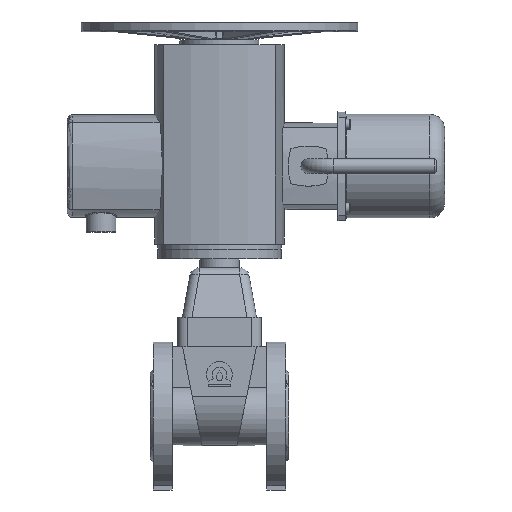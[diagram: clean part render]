
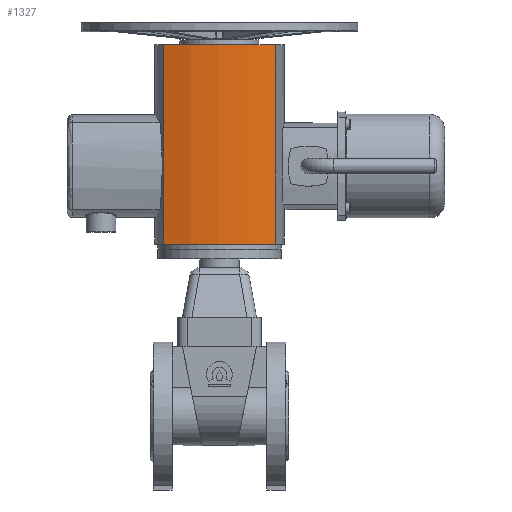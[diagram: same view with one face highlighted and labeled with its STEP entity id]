
A CAD part, left-side view. The second image highlights one B-rep face of the part: STEP entity #1327.
In plain terms, the highlighted cylindrical face has radius 180 mm (diameter 360 mm), a partial arc.
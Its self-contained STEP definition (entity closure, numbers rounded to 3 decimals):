
#1327=ADVANCED_FACE('',(#4916),#4918,.T.);
#4916=FACE_BOUND('',#4917,.T.);
#4917=EDGE_LOOP('',(#8046,#8047,#8048,#8049));
#4918=CYLINDRICAL_SURFACE('',#4919,180.);
#4919=AXIS2_PLACEMENT_3D('',#4920,#4921,#4922);
#4920=CARTESIAN_POINT('',(114.312,0.,174.));
#4921=DIRECTION('',(0.,0.,1.));
#4922=DIRECTION('',(-0.949,0.314,0.));
#8046=ORIENTED_EDGE('',*,*,#9403,.T.);
#8047=ORIENTED_EDGE('',*,*,#9399,.T.);
#8048=ORIENTED_EDGE('',*,*,#9412,.F.);
#8049=ORIENTED_EDGE('',*,*,#9406,.F.);
#9399=EDGE_CURVE('',#10463,#10461,#10464,.T.);
#9403=EDGE_CURVE('',#10469,#10463,#10470,.T.);
#9406=EDGE_CURVE('',#10469,#10474,#10475,.T.);
#9412=EDGE_CURVE('',#10474,#10461,#10485,.T.);
#10461=VERTEX_POINT('',#13748);
#10463=VERTEX_POINT('',#13753);
#10464=LINE('',#13754,#13755);
#10469=VERTEX_POINT('',#13832);
#10470=CIRCLE('',#13833,180.);
#10474=VERTEX_POINT('',#13846);
#10475=LINE('',#13847,#13848);
#10485=CIRCLE('',#14049,180.);
#13748=CARTESIAN_POINT('',(-56.569,-56.569,376.));
#13753=CARTESIAN_POINT('',(-56.569,-56.569,174.));
#13754=CARTESIAN_POINT('',(-56.569,-56.569,174.));
#13755=VECTOR('',#13756,1.);
#13756=DIRECTION('',(0.,0.,1.));
#13832=CARTESIAN_POINT('',(-56.569,56.569,174.));
#13833=AXIS2_PLACEMENT_3D('',#13834,#13835,#13836);
#13834=CARTESIAN_POINT('',(114.312,0.,174.));
#13835=DIRECTION('',(0.,0.,1.));
#13836=DIRECTION('',(-0.949,0.314,0.));
#13846=CARTESIAN_POINT('',(-56.569,56.569,376.));
#13847=CARTESIAN_POINT('',(-56.569,56.569,174.));
#13848=VECTOR('',#13849,1.);
#13849=DIRECTION('',(0.,0.,1.));
#14049=AXIS2_PLACEMENT_3D('',#14050,#14051,#14052);
#14050=CARTESIAN_POINT('',(114.312,0.,376.));
#14051=DIRECTION('',(0.,0.,1.));
#14052=DIRECTION('',(-0.949,0.314,0.));
